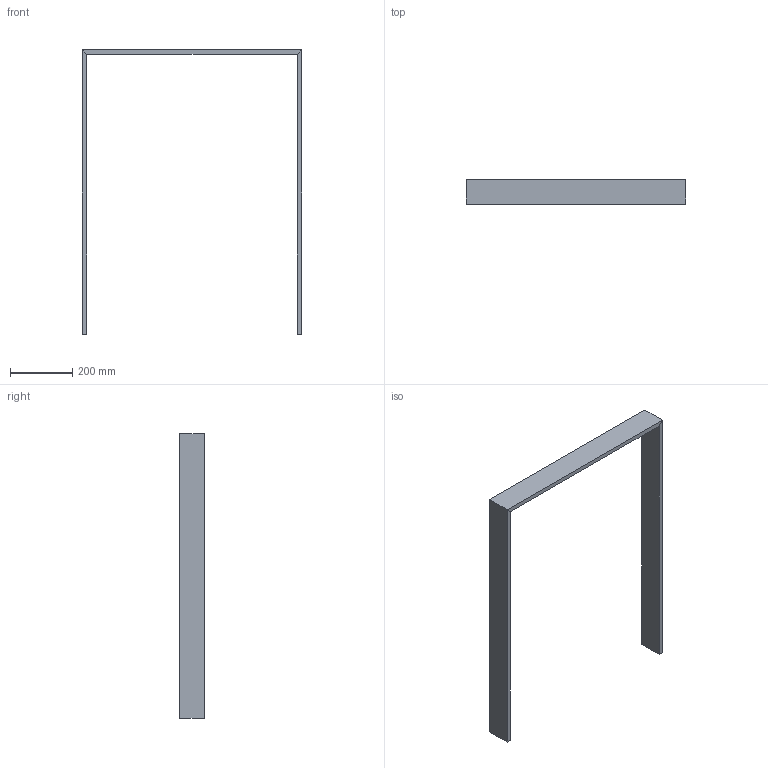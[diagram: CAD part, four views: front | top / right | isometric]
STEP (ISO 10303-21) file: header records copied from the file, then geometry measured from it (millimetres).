
FILE_DESCRIPTION(/* description */ (''),/* implementation_level */ '2;1');
FILE_NAME(/* name */ 'G3_HKI_kaariteline_lattateras',/* time_stamp */ '2022-09-05T16:54:09+03:00',/* author */ (''),/* organization */ (''),/* preprocessor_version */ 'ST-DEVELOPER v16.5',/* originating_system */ 'Rhino 7.18',/* authorisation */ '');
FILE_SCHEMA (('CONFIG_CONTROL_DESIGN'));
Length unit declared in the file: centimetre
Products named in the file (1): Document
Bounding box: 706 x 80 x 915 mm (x, y, z)
Volume: 3007199.2 mm3; surface area: 485328.2 mm2
Topology: 3 solids, 3 shells, 18 faces, 36 edges, 24 vertices
Faces by surface type: plane 18
Entity records: 488 total; most frequent: CARTESIAN_POINT 116, ORIENTED_EDGE 72, EDGE_CURVE 36, B_SPLINE_CURVE_WITH_KNOTS 36, VERTEX_POINT 24, DIRECTION 22, AXIS2_PLACEMENT_3D 20, ADVANCED_FACE 18
